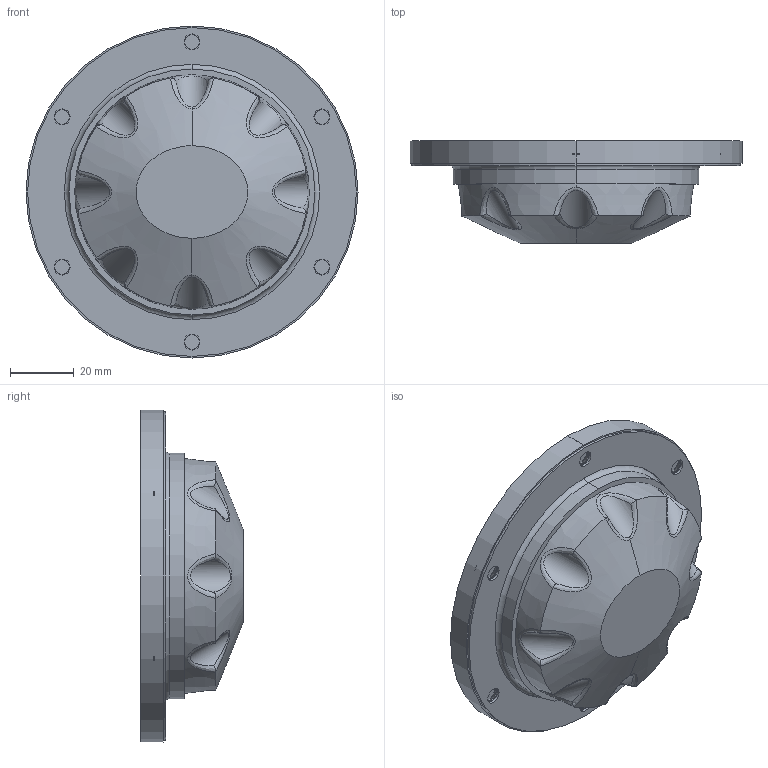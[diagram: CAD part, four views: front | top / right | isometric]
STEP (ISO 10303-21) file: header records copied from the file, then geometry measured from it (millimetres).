
FILE_DESCRIPTION (( 'STEP AP214' ), '1' );
FILE_NAME ('D2404-552000.STEP', '2020-12-15T08:26:03', ( '' ), ( '' ), 'SwSTEP 2.0', 'SolidWorks 2019', '' );
FILE_SCHEMA (( 'AUTOMOTIVE_DESIGN' ));
Length unit declared in the file: millimetre
Products named in the file (1): D2404-552000
Bounding box: 104 x 32 x 104 mm (x, y, z)
Volume: 134898 mm3; surface area: 24817.6 mm2
Topology: 1 solids, 1 shells, 125 faces, 274 edges, 167 vertices
Faces by surface type: cylinder 54, bspline 20, cone 20, plane 17, torus 12, sphere 2
Entity records: 7454 total; most frequent: CARTESIAN_POINT 4815, ORIENTED_EDGE 548, DIRECTION 526, EDGE_CURVE 274, AXIS2_PLACEMENT_3D 230, VERTEX_POINT 167, EDGE_LOOP 141, FACE_OUTER_BOUND 125
